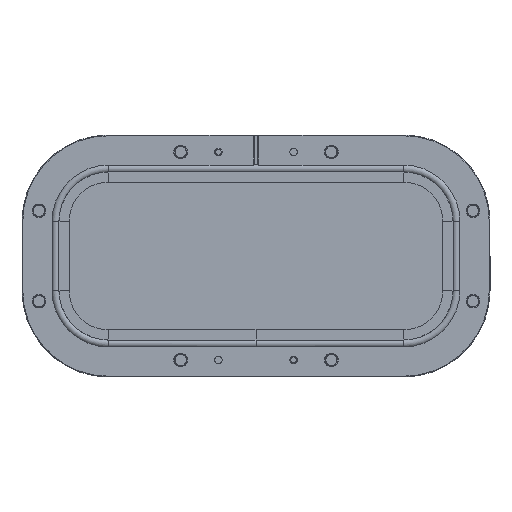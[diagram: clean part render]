
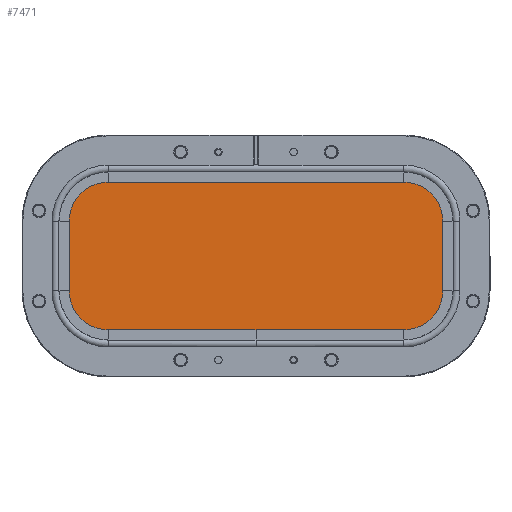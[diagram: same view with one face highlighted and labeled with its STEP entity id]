
A CAD part, front view. The second image highlights one B-rep face of the part: STEP entity #7471.
In plain terms, the highlighted planar face has unit normal (0, -1, 0).
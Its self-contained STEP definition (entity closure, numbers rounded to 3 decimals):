
#433 = CARTESIAN_POINT ( 'NONE',  ( 134.8, 0., -23. ) ) ;
#868 = CARTESIAN_POINT ( 'NONE',  ( -134.8, 0., 23. ) ) ;
#923 = DIRECTION ( 'NONE',  ( 0., 0., 1. ) ) ;
#957 = DIRECTION ( 'NONE',  ( 0., -1., 0. ) ) ;
#1016 = CARTESIAN_POINT ( 'NONE',  ( -98., 0., 59.8 ) ) ;
#1148 = ORIENTED_EDGE ( 'NONE', *, *, #4470, .T. ) ;
#1192 = VERTEX_POINT ( 'NONE', #1692 ) ;
#1270 = VERTEX_POINT ( 'NONE', #5350 ) ;
#1645 = VECTOR ( 'NONE', #6815, 1000. ) ;
#1683 = LINE ( 'NONE', #8538, #6816 ) ;
#1692 = CARTESIAN_POINT ( 'NONE',  ( -98., 0., -59.8 ) ) ;
#1837 = ORIENTED_EDGE ( 'NONE', *, *, #7498, .T. ) ;
#1907 = LINE ( 'NONE', #868, #1645 ) ;
#1913 = DIRECTION ( 'NONE',  ( 0., -1., 0. ) ) ;
#2198 = EDGE_CURVE ( 'NONE', #2445, #6155, #9534, .T. ) ;
#2411 = ORIENTED_EDGE ( 'NONE', *, *, #5748, .T. ) ;
#2445 = VERTEX_POINT ( 'NONE', #2850 ) ;
#2538 = CARTESIAN_POINT ( 'NONE',  ( -98., 0., 23. ) ) ;
#2652 = PLANE ( 'NONE',  #8739 ) ;
#2826 = DIRECTION ( 'NONE',  ( -1., 0., 0. ) ) ;
#2827 = CARTESIAN_POINT ( 'NONE',  ( -98., 0., -59.8 ) ) ;
#2850 = CARTESIAN_POINT ( 'NONE',  ( -98., 0., 59.8 ) ) ;
#3072 = EDGE_CURVE ( 'NONE', #6155, #7492, #1907, .T. ) ;
#3129 = EDGE_LOOP ( 'NONE', ( #10851, #2411, #10873, #1837, #9361, #1148, #9316, #3486 ) ) ;
#3276 = EDGE_CURVE ( 'NONE', #7492, #1192, #6756, .T. ) ;
#3421 = DIRECTION ( 'NONE',  ( 0., 0., 1. ) ) ;
#3486 = ORIENTED_EDGE ( 'NONE', *, *, #3072, .T. ) ;
#3720 = VERTEX_POINT ( 'NONE', #7759 ) ;
#3906 = AXIS2_PLACEMENT_3D ( 'NONE', #6167, #957, #3421 ) ;
#4124 = DIRECTION ( 'NONE',  ( 0., 0., 1. ) ) ;
#4331 = CARTESIAN_POINT ( 'NONE',  ( 98., 0., -23. ) ) ;
#4470 = EDGE_CURVE ( 'NONE', #1270, #2445, #7010, .T. ) ;
#4820 = AXIS2_PLACEMENT_3D ( 'NONE', #9919, #9240, #4124 ) ;
#5132 = VECTOR ( 'NONE', #2826, 1000. ) ;
#5216 = LINE ( 'NONE', #2827, #7335 ) ;
#5350 = CARTESIAN_POINT ( 'NONE',  ( 98., 0., 59.8 ) ) ;
#5397 = VERTEX_POINT ( 'NONE', #433 ) ;
#5433 = DIRECTION ( 'NONE',  ( 1., 0., 0. ) ) ;
#5481 = AXIS2_PLACEMENT_3D ( 'NONE', #7843, #1913, #6044 ) ;
#5645 = EDGE_CURVE ( 'NONE', #6900, #1270, #5885, .T. ) ;
#5730 = AXIS2_PLACEMENT_3D ( 'NONE', #4331, #11053, #10278 ) ;
#5748 = EDGE_CURVE ( 'NONE', #1192, #3720, #5216, .T. ) ;
#5868 = FACE_OUTER_BOUND ( 'NONE', #3129, .T. ) ;
#5885 = CIRCLE ( 'NONE', #3906, 36.8 ) ;
#5918 = CIRCLE ( 'NONE', #5730, 36.8 ) ;
#6044 = DIRECTION ( 'NONE',  ( 0., 0., 1. ) ) ;
#6155 = VERTEX_POINT ( 'NONE', #6953 ) ;
#6167 = CARTESIAN_POINT ( 'NONE',  ( 98., 0., 23. ) ) ;
#6756 = CIRCLE ( 'NONE', #5481, 36.8 ) ;
#6815 = DIRECTION ( 'NONE',  ( 0., 0., -1. ) ) ;
#6816 = VECTOR ( 'NONE', #9470, 1000. ) ;
#6900 = VERTEX_POINT ( 'NONE', #10962 ) ;
#6953 = CARTESIAN_POINT ( 'NONE',  ( -134.8, 0., 23. ) ) ;
#7010 = LINE ( 'NONE', #1016, #5132 ) ;
#7335 = VECTOR ( 'NONE', #5433, 1000. ) ;
#7471 = ADVANCED_FACE ( 'NONE', ( #5868 ), #2652, .F. ) ;
#7492 = VERTEX_POINT ( 'NONE', #9399 ) ;
#7498 = EDGE_CURVE ( 'NONE', #5397, #6900, #1683, .T. ) ;
#7759 = CARTESIAN_POINT ( 'NONE',  ( 98., 0., -59.8 ) ) ;
#7843 = CARTESIAN_POINT ( 'NONE',  ( -98., 0., -23. ) ) ;
#8500 = DIRECTION ( 'NONE',  ( 0., 1., 0. ) ) ;
#8538 = CARTESIAN_POINT ( 'NONE',  ( 134.8, 0., 23. ) ) ;
#8739 = AXIS2_PLACEMENT_3D ( 'NONE', #2538, #8500, #923 ) ;
#9240 = DIRECTION ( 'NONE',  ( 0., -1., 0. ) ) ;
#9316 = ORIENTED_EDGE ( 'NONE', *, *, #2198, .T. ) ;
#9361 = ORIENTED_EDGE ( 'NONE', *, *, #5645, .T. ) ;
#9399 = CARTESIAN_POINT ( 'NONE',  ( -134.8, 0., -23. ) ) ;
#9470 = DIRECTION ( 'NONE',  ( 0., 0., 1. ) ) ;
#9534 = CIRCLE ( 'NONE', #4820, 36.8 ) ;
#9919 = CARTESIAN_POINT ( 'NONE',  ( -98., 0., 23. ) ) ;
#10278 = DIRECTION ( 'NONE',  ( 0., 0., 1. ) ) ;
#10664 = EDGE_CURVE ( 'NONE', #3720, #5397, #5918, .T. ) ;
#10851 = ORIENTED_EDGE ( 'NONE', *, *, #3276, .T. ) ;
#10873 = ORIENTED_EDGE ( 'NONE', *, *, #10664, .T. ) ;
#10962 = CARTESIAN_POINT ( 'NONE',  ( 134.8, 0., 23. ) ) ;
#11053 = DIRECTION ( 'NONE',  ( 0., -1., 0. ) ) ;
